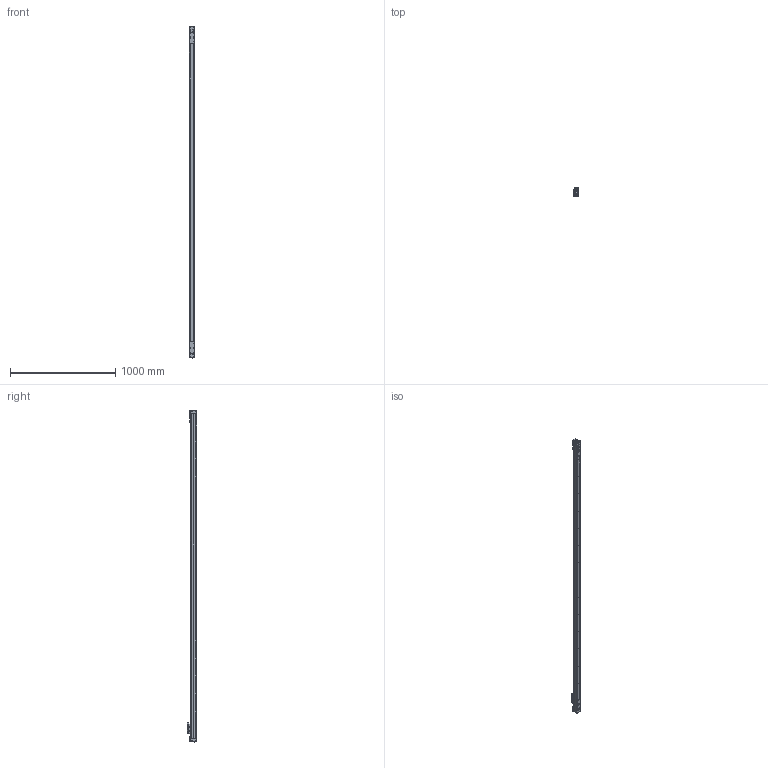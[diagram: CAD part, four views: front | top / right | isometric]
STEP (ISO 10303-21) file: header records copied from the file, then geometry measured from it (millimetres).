
FILE_DESCRIPTION(('Creo Elements/Direct Modeling STEP Export'),'2;1');
FILE_NAME('Regla L-28.stp','2011-10-03T10:13:56',(''),(''),'Creo Elements/Direct Modeling STEP processor for AP214 (Solid Model)','Creo Elements/Direct Modeling 17.0C 05-Feb-2011 (C) Parametric Technology GmbH','');
FILE_SCHEMA(('AUTOMOTIVE_DESIGN { 1 0 10303 214 1 1 1 1 }'));
Products named in the file (3): L-28_PERFIL; L-28_CABEZA; L-28
Assembly tree (2 placements, depth 2):
  L-28
    L-28_CABEZA
    L-28_PERFIL
Bounding box: 50 x 86.45 x 3149.1 mm (x, y, z)
Volume: 8069731.8 mm3; surface area: 969405.3 mm2
Topology: 3 solids, 21 shells, 2335 faces, 6683 edges, 4398 vertices
Faces by surface type: cylinder 1075, plane 1041, cone 114, torus 78, sphere 18, bspline 9
Entity records: 84173 total; most frequent: CARTESIAN_POINT 23138, ORIENTED_EDGE 13334, DIRECTION 11251, EDGE_CURVE 6667, VERTEX_POINT 4396, AXIS2_PLACEMENT_3D 3810, VECTOR 3631, LINE 3631
